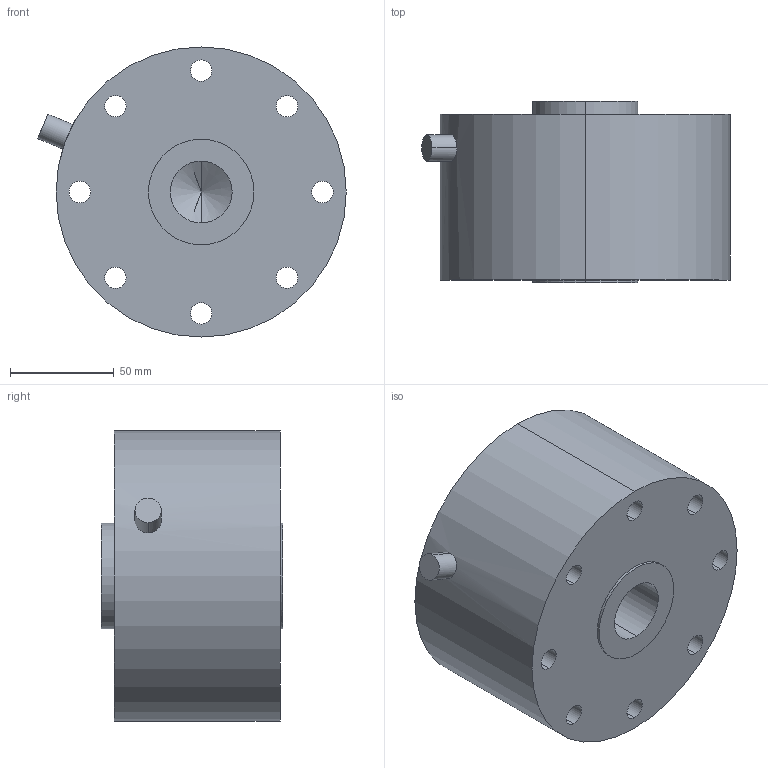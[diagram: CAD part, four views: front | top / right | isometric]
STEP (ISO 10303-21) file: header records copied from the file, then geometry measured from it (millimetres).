
FILE_DESCRIPTION (( 'STEP AP203' ), '1' );
FILE_NAME ('RAL1_100KS_S.STEP', '2020-04-04T13:14:10', ( '' ), ( '' ), 'SwSTEP 2.0', 'SolidWorks 2016', '' );
FILE_SCHEMA (( 'CONFIG_CONTROL_DESIGN' ));
Length unit declared in the file: inch
Products named in the file (1): RAL1_100KS_S
Bounding box: 148.55 x 87.38 x 139.7 mm (x, y, z)
Volume: 1119882.6 mm3; surface area: 95254.3 mm2
Topology: 1 solids, 1 shells, 64 faces, 146 edges, 94 vertices
Faces by surface type: cylinder 46, plane 14, cone 4
Entity records: 2011 total; most frequent: CARTESIAN_POINT 385, DIRECTION 360, ORIENTED_EDGE 284, AXIS2_PLACEMENT_3D 155, EDGE_CURVE 142, VERTEX_POINT 94, EDGE_LOOP 94, CIRCLE 90
